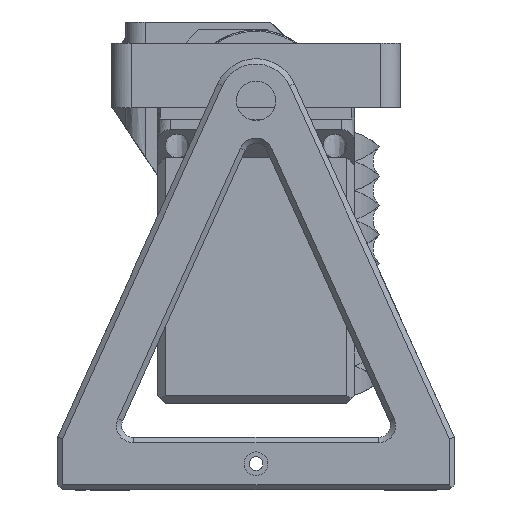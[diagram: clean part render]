
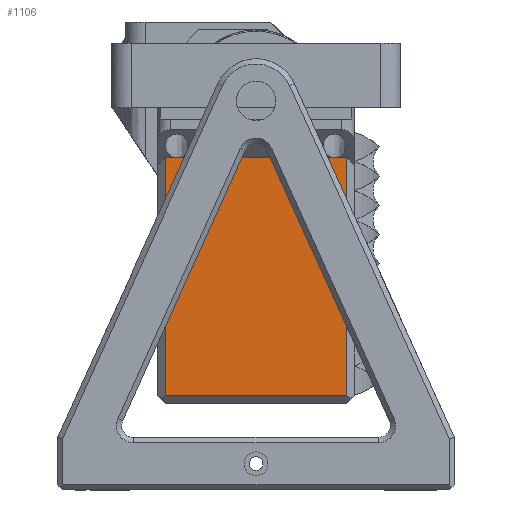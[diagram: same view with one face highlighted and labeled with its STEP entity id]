
A CAD part, left-side view. The second image highlights one B-rep face of the part: STEP entity #1106.
In plain terms, the highlighted planar face has unit normal (-1, 0, 0).
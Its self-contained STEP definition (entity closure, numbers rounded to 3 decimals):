
#1106=ADVANCED_FACE('',(#2672),#26467,.T.);
#2672=FACE_OUTER_BOUND('',#4343,.T.);
#4343=EDGE_LOOP('',(#9785,#9786,#9787,#9788,#9789,#9790));
#9785=ORIENTED_EDGE('',*,*,#16178,.T.);
#9786=ORIENTED_EDGE('',*,*,#16135,.T.);
#9787=ORIENTED_EDGE('',*,*,#16129,.T.);
#9788=ORIENTED_EDGE('',*,*,#16130,.T.);
#9789=ORIENTED_EDGE('',*,*,#16177,.F.);
#9790=ORIENTED_EDGE('',*,*,#16158,.T.);
#16129=EDGE_CURVE('',#23813,#23866,#19458,.T.);
#16130=EDGE_CURVE('',#23866,#23952,#19459,.T.);
#16135=EDGE_CURVE('',#23954,#23813,#19464,.T.);
#16158=EDGE_CURVE('',#23975,#23978,#19487,.T.);
#16177=EDGE_CURVE('',#23975,#23952,#19506,.T.);
#16178=EDGE_CURVE('',#23978,#23954,#19507,.T.);
#19458=B_SPLINE_CURVE_WITH_KNOTS('',1,(#45877,#45878),.UNSPECIFIED.,.F.,
 .F.,(2,2),(219.5,279.5),.UNSPECIFIED.);
#19459=B_SPLINE_CURVE_WITH_KNOTS('',1,(#45879,#45880),.UNSPECIFIED.,.F.,
 .F.,(2,2),(279.5,284.),.UNSPECIFIED.);
#19464=B_SPLINE_CURVE_WITH_KNOTS('',1,(#45935,#45936),.UNSPECIFIED.,.F.,
 .F.,(2,2),(3.,7.5),.UNSPECIFIED.);
#19487=B_SPLINE_CURVE_WITH_KNOTS('',1,(#46141,#46142),.UNSPECIFIED.,.F.,
 .F.,(2,2),(3.,72.),.UNSPECIFIED.);
#19506=B_SPLINE_CURVE_WITH_KNOTS('',1,(#46299,#46300),.UNSPECIFIED.,.F.,
 .F.,(2,2),(0.,90.4),.UNSPECIFIED.);
#19507=B_SPLINE_CURVE_WITH_KNOTS('',1,(#46301,#46302),.UNSPECIFIED.,.F.,
 .F.,(2,2),(0.,90.4),.UNSPECIFIED.);
#23813=VERTEX_POINT('',#44011);
#23866=VERTEX_POINT('',#44064);
#23952=VERTEX_POINT('',#44150);
#23954=VERTEX_POINT('',#44152);
#23975=VERTEX_POINT('',#44173);
#23978=VERTEX_POINT('',#44176);
#26467=PLANE('',#27139);
#27139=AXIS2_PLACEMENT_3D('',#42330,#27794,$);
#27794=DIRECTION('',(-1.,0.,0.));
#42330=CARTESIAN_POINT('',(33.25,140.,-119.1));
#44011=CARTESIAN_POINT('',(33.25,25.,-23.6));
#44064=CARTESIAN_POINT('',(33.25,85.,-23.6));
#44150=CARTESIAN_POINT('',(33.25,89.5,-23.6));
#44152=CARTESIAN_POINT('',(33.25,20.5,-23.6));
#44173=CARTESIAN_POINT('',(33.25,89.5,-114.));
#44176=CARTESIAN_POINT('',(33.25,20.5,-114.));
#45877=CARTESIAN_POINT('',(33.25,25.,-23.6));
#45878=CARTESIAN_POINT('',(33.25,85.,-23.6));
#45879=CARTESIAN_POINT('',(33.25,85.,-23.6));
#45880=CARTESIAN_POINT('',(33.25,89.5,-23.6));
#45935=CARTESIAN_POINT('',(33.25,20.5,-23.6));
#45936=CARTESIAN_POINT('',(33.25,25.,-23.6));
#46141=CARTESIAN_POINT('',(33.25,89.5,-114.));
#46142=CARTESIAN_POINT('',(33.25,20.5,-114.));
#46299=CARTESIAN_POINT('',(33.25,89.5,-114.));
#46300=CARTESIAN_POINT('',(33.25,89.5,-23.6));
#46301=CARTESIAN_POINT('',(33.25,20.5,-114.));
#46302=CARTESIAN_POINT('',(33.25,20.5,-23.6));
